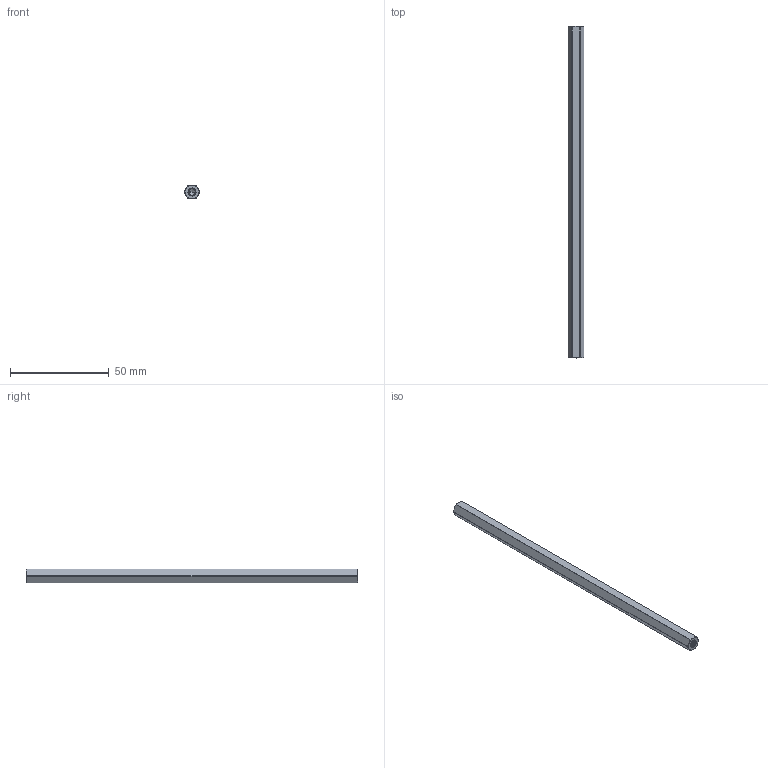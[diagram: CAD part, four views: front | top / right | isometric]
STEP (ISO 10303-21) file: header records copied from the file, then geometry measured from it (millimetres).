
FILE_DESCRIPTION (( 'STEP AP203' ), '1' );
FILE_NAME ('1516-4008-1680.STEP', '2022-08-26T15:06:16', ( '' ), ( '' ), 'SwSTEP 2.0', 'SolidWorks 2016', '' );
FILE_SCHEMA (( 'CONFIG_CONTROL_DESIGN' ));
Length unit declared in the file: millimetre
Products named in the file (1): 1516-4008-1680
Bounding box: 8 x 168 x 7 mm (x, y, z)
Volume: 6909.4 mm3; surface area: 4480.8 mm2
Topology: 1 solids, 1 shells, 148 faces, 422 edges, 274 vertices
Faces by surface type: cylinder 114, cone 20, plane 10, bspline 4
Entity records: 10327 total; most frequent: CARTESIAN_POINT 7087, ORIENTED_EDGE 836, DIRECTION 512, EDGE_CURVE 418, VERTEX_POINT 274, AXIS2_PLACEMENT_3D 193, EDGE_LOOP 150, FACE_OUTER_BOUND 148
